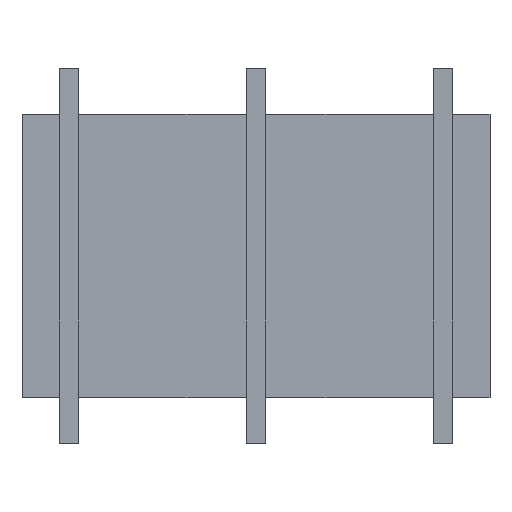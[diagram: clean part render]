
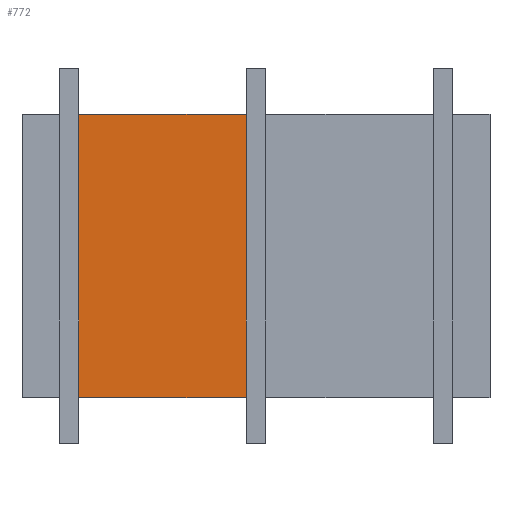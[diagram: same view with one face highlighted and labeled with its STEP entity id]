
A CAD part, top view. The second image highlights one B-rep face of the part: STEP entity #772.
In plain terms, the highlighted planar face has unit normal (0, 0, 1).
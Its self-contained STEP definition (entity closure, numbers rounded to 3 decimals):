
#44 = PLANE('',#45);
#45 = AXIS2_PLACEMENT_3D('',#46,#47,#48);
#46 = CARTESIAN_POINT('',(-30.,-18.15,-1.5));
#47 = DIRECTION('',(0.,1.,0.));
#48 = DIRECTION('',(0.,0.,1.));
#100 = PLANE('',#101);
#101 = AXIS2_PLACEMENT_3D('',#102,#103,#104);
#102 = CARTESIAN_POINT('',(-30.,18.15,-1.5));
#103 = DIRECTION('',(0.,1.,0.));
#104 = DIRECTION('',(0.,0.,1.));
#189 = VERTEX_POINT('',#190);
#190 = CARTESIAN_POINT('',(-22.75,-18.15,1.5));
#216 = EDGE_CURVE('',#189,#217,#219,.T.);
#217 = VERTEX_POINT('',#218);
#218 = CARTESIAN_POINT('',(-1.25,-18.15,1.5));
#219 = SURFACE_CURVE('',#220,(#224,#231),.PCURVE_S1.);
#220 = LINE('',#221,#222);
#221 = CARTESIAN_POINT('',(-30.,-18.15,1.5));
#222 = VECTOR('',#223,1.);
#223 = DIRECTION('',(1.,0.,0.));
#224 = PCURVE('',#44,#225);
#225 = DEFINITIONAL_REPRESENTATION('',(#226),#230);
#226 = LINE('',#227,#228);
#227 = CARTESIAN_POINT('',(3.,0.));
#228 = VECTOR('',#229,1.);
#229 = DIRECTION('',(0.,1.));
#230 = ( GEOMETRIC_REPRESENTATION_CONTEXT(2) 
PARAMETRIC_REPRESENTATION_CONTEXT() REPRESENTATION_CONTEXT('2D SPACE',''
  ) );
#231 = PCURVE('',#232,#237);
#232 = PLANE('',#233);
#233 = AXIS2_PLACEMENT_3D('',#234,#235,#236);
#234 = CARTESIAN_POINT('',(-30.,-18.15,1.5));
#235 = DIRECTION('',(0.,0.,1.));
#236 = DIRECTION('',(1.,0.,0.));
#237 = DEFINITIONAL_REPRESENTATION('',(#238),#242);
#238 = LINE('',#239,#240);
#239 = CARTESIAN_POINT('',(0.,0.));
#240 = VECTOR('',#241,1.);
#241 = DIRECTION('',(1.,0.));
#242 = ( GEOMETRIC_REPRESENTATION_CONTEXT(2) 
PARAMETRIC_REPRESENTATION_CONTEXT() REPRESENTATION_CONTEXT('2D SPACE',''
  ) );
#465 = VERTEX_POINT('',#466);
#466 = CARTESIAN_POINT('',(-22.75,18.15,1.5));
#492 = EDGE_CURVE('',#465,#493,#495,.T.);
#493 = VERTEX_POINT('',#494);
#494 = CARTESIAN_POINT('',(-1.25,18.15,1.5));
#495 = SURFACE_CURVE('',#496,(#500,#507),.PCURVE_S1.);
#496 = LINE('',#497,#498);
#497 = CARTESIAN_POINT('',(-30.,18.15,1.5));
#498 = VECTOR('',#499,1.);
#499 = DIRECTION('',(1.,0.,0.));
#500 = PCURVE('',#100,#501);
#501 = DEFINITIONAL_REPRESENTATION('',(#502),#506);
#502 = LINE('',#503,#504);
#503 = CARTESIAN_POINT('',(3.,0.));
#504 = VECTOR('',#505,1.);
#505 = DIRECTION('',(0.,1.));
#506 = ( GEOMETRIC_REPRESENTATION_CONTEXT(2) 
PARAMETRIC_REPRESENTATION_CONTEXT() REPRESENTATION_CONTEXT('2D SPACE',''
  ) );
#507 = PCURVE('',#232,#508);
#508 = DEFINITIONAL_REPRESENTATION('',(#509),#513);
#509 = LINE('',#510,#511);
#510 = CARTESIAN_POINT('',(0.,36.3));
#511 = VECTOR('',#512,1.);
#512 = DIRECTION('',(1.,0.));
#513 = ( GEOMETRIC_REPRESENTATION_CONTEXT(2) 
PARAMETRIC_REPRESENTATION_CONTEXT() REPRESENTATION_CONTEXT('2D SPACE',''
  ) );
#760 = PLANE('',#761);
#761 = AXIS2_PLACEMENT_3D('',#762,#763,#764);
#762 = CARTESIAN_POINT('',(-22.75,-24.,1.5));
#763 = DIRECTION('',(-1.,0.,0.));
#764 = DIRECTION('',(0.,1.,0.));
#772 = ADVANCED_FACE('',(#773),#232,.T.);
#773 = FACE_BOUND('',#774,.T.);
#774 = EDGE_LOOP('',(#775,#776,#797,#798));
#775 = ORIENTED_EDGE('',*,*,#492,.F.);
#776 = ORIENTED_EDGE('',*,*,#777,.F.);
#777 = EDGE_CURVE('',#189,#465,#778,.T.);
#778 = SURFACE_CURVE('',#779,(#783,#790),.PCURVE_S1.);
#779 = LINE('',#780,#781);
#780 = CARTESIAN_POINT('',(-22.75,-24.,1.5));
#781 = VECTOR('',#782,1.);
#782 = DIRECTION('',(0.,1.,0.));
#783 = PCURVE('',#232,#784);
#784 = DEFINITIONAL_REPRESENTATION('',(#785),#789);
#785 = LINE('',#786,#787);
#786 = CARTESIAN_POINT('',(7.25,-5.85));
#787 = VECTOR('',#788,1.);
#788 = DIRECTION('',(0.,1.));
#789 = ( GEOMETRIC_REPRESENTATION_CONTEXT(2) 
PARAMETRIC_REPRESENTATION_CONTEXT() REPRESENTATION_CONTEXT('2D SPACE',''
  ) );
#790 = PCURVE('',#760,#791);
#791 = DEFINITIONAL_REPRESENTATION('',(#792),#796);
#792 = LINE('',#793,#794);
#793 = CARTESIAN_POINT('',(0.,0.));
#794 = VECTOR('',#795,1.);
#795 = DIRECTION('',(1.,0.));
#796 = ( GEOMETRIC_REPRESENTATION_CONTEXT(2) 
PARAMETRIC_REPRESENTATION_CONTEXT() REPRESENTATION_CONTEXT('2D SPACE',''
  ) );
#797 = ORIENTED_EDGE('',*,*,#216,.T.);
#798 = ORIENTED_EDGE('',*,*,#799,.F.);
#799 = EDGE_CURVE('',#493,#217,#800,.T.);
#800 = SURFACE_CURVE('',#801,(#805,#812),.PCURVE_S1.);
#801 = LINE('',#802,#803);
#802 = CARTESIAN_POINT('',(-1.25,24.,1.5));
#803 = VECTOR('',#804,1.);
#804 = DIRECTION('',(0.,-1.,0.));
#805 = PCURVE('',#232,#806);
#806 = DEFINITIONAL_REPRESENTATION('',(#807),#811);
#807 = LINE('',#808,#809);
#808 = CARTESIAN_POINT('',(28.75,42.15));
#809 = VECTOR('',#810,1.);
#810 = DIRECTION('',(0.,-1.));
#811 = ( GEOMETRIC_REPRESENTATION_CONTEXT(2) 
PARAMETRIC_REPRESENTATION_CONTEXT() REPRESENTATION_CONTEXT('2D SPACE',''
  ) );
#812 = PCURVE('',#813,#818);
#813 = PLANE('',#814);
#814 = AXIS2_PLACEMENT_3D('',#815,#816,#817);
#815 = CARTESIAN_POINT('',(-1.25,24.,1.5));
#816 = DIRECTION('',(1.,0.,-0.));
#817 = DIRECTION('',(0.,-1.,0.));
#818 = DEFINITIONAL_REPRESENTATION('',(#819),#823);
#819 = LINE('',#820,#821);
#820 = CARTESIAN_POINT('',(0.,0.));
#821 = VECTOR('',#822,1.);
#822 = DIRECTION('',(1.,0.));
#823 = ( GEOMETRIC_REPRESENTATION_CONTEXT(2) 
PARAMETRIC_REPRESENTATION_CONTEXT() REPRESENTATION_CONTEXT('2D SPACE',''
  ) );
